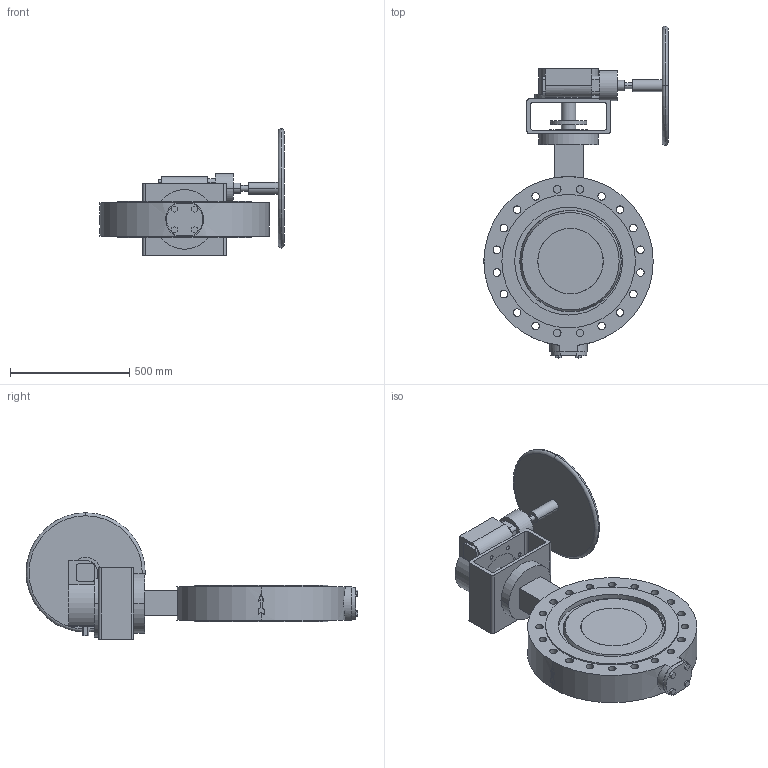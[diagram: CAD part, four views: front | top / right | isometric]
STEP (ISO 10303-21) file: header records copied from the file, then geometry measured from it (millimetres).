
FILE_DESCRIPTION( ( '' ), '1' );
FILE_NAME( 'F:/DE-SHS/TB/OR/04-Sonstiges/daten/Excel/mneugeba/018_ZETRIX-PN40_Getriebe-Rotork/c000006459.stp', '2016-09-19T06:44:07', ( '' ), ( '' ), ' ', ' ', ' ' );
FILE_SCHEMA( ( 'CONFIG_CONTROL_DESIGN' ) );
Length unit declared in the file: millimetre
Products named in the file (2): 1; 2
Bounding box: 772 x 1392 x 530 mm (x, y, z)
Volume: 68080735.5 mm3; surface area: 3195171.9 mm2
Topology: 2 solids, 2 shells, 307 faces, 795 edges, 530 vertices
Faces by surface type: cylinder 156, plane 139, sphere 4, cone 4, torus 4
Entity records: 10573 total; most frequent: CARTESIAN_POINT 2551, DIRECTION 1729, ORIENTED_EDGE 1590, EDGE_CURVE 795, AXIS2_PLACEMENT_3D 658, VERTEX_POINT 530, LINE 413, VECTOR 413
